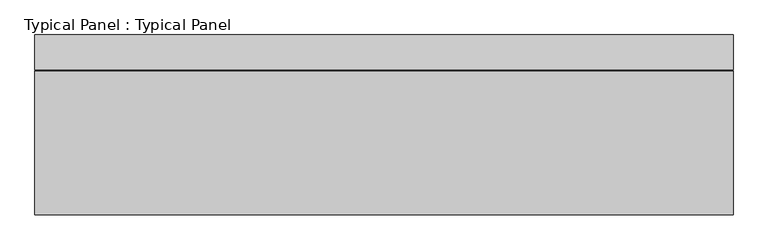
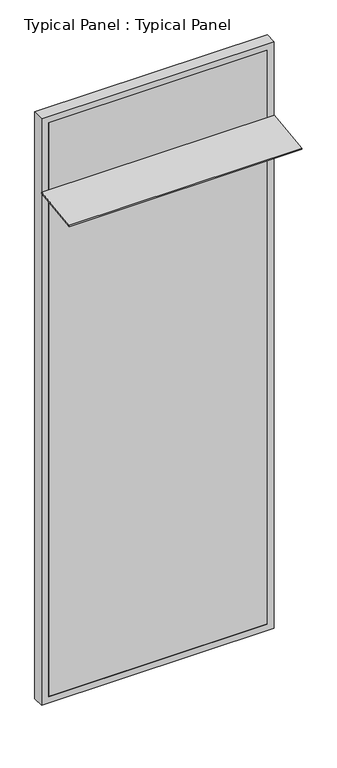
"""IFC4 building model written with IfcOpenShell, lengths in millimetres: plate geometry, Typical Panel : Typical Panel."""

import ifcopenshell
import ifcopenshell.guid

model = None  # the IFC model being written
_history = None  # IfcOwnerHistory: only IFC2X3 demands one
_inside = {}  # id of a spatial element -> (the spatial element, [elements in it])
_under = {}  # id of a project, library or spatial element -> (it, [spatial elements below it])
_declared = {}  # id of a project -> (the project, [libraries it declares])
_typed = {}  # id of a type object -> (the type object, [elements of that type])
_made_of = {}  # id of a material, layer set ... -> (it, [elements and type objects made of it])


def new_model(schema):
    """Start an empty IFC model of exactly this schema.

    Asked for "IFC4X3", IfcOpenShell would pick the latest addendum, in which some entities
    have other attributes; the version numbers below select the first issue.
    IFC2X3 requires an IfcOwnerHistory on every rooted entity: one is made here for all.
    """
    global model, _history
    if schema == "IFC4X3":
        model = ifcopenshell.file(schema_version=(4, 3, 0, 0))
    else:
        model = ifcopenshell.file(schema=schema)
    _inside.clear()
    _under.clear()
    _declared.clear()
    _typed.clear()
    _made_of.clear()
    _history = None
    if model.schema == "IFC2X3":
        org = make("IfcOrganization", Name="unknown")
        user = make(
            "IfcPersonAndOrganization",
            ThePerson=make("IfcPerson", FamilyName="unknown"),
            TheOrganization=org,
        )
        app = make(
            "IfcApplication",
            ApplicationDeveloper=org,
            Version="unknown",
            ApplicationFullName="unknown",
            ApplicationIdentifier="unknown",
        )
        _history = make(
            "IfcOwnerHistory",
            OwningUser=user,
            OwningApplication=app,
            ChangeAction="ADDED",
            CreationDate=0,
        )
    return model


def make(cls, **values):
    """One entity of the class cls with the attributes given. An attribute that is None is left unset."""
    return model.create_entity(
        cls, **{name: value for name, value in values.items() if value is not None}
    )


def rooted(cls, **values):
    """An entity with a GlobalId (a new one), such as an element, a storey or a relation."""
    return make(cls, GlobalId=ifcopenshell.guid.new(), OwnerHistory=_history, **values)


def si_unit(unit_type, name, prefix=None):
    """IfcSIUnit, for example si_unit("LENGTHUNIT", "METRE", prefix="MILLI")."""
    return make("IfcSIUnit", UnitType=unit_type, Prefix=prefix, Name=name)


def assignment(units):
    """IfcUnitAssignment: the units of a project."""
    return None if units is None else make("IfcUnitAssignment", Units=units)


def point(xyz):
    """IfcCartesianPoint."""
    return None if xyz is None else make("IfcCartesianPoint", Coordinates=xyz)


def direction(xyz):
    """IfcDirection."""
    return None if xyz is None else make("IfcDirection", DirectionRatios=xyz)


def frame(location, z_axis=None, x_axis=None):
    """IfcAxis2Placement3D, a coordinate frame: its origin and axes. An axis left out is left unset."""
    return make(
        "IfcAxis2Placement3D",
        Location=point(location),
        Axis=direction(z_axis),
        RefDirection=direction(x_axis),
    )


def origin():
    """The frame at (0, 0, 0) with its axes left unset."""
    return frame((0.0, 0.0, 0.0))


def place(relative_to, where):
    """IfcLocalPlacement: puts the frame where relative to a parent placement (None: the world)."""
    return make(
        "IfcLocalPlacement", PlacementRelTo=relative_to, RelativePlacement=where
    )


def context(
    kind, dimensions, precision=None, world=None, true_north=None, identifier=None
):
    """IfcGeometricRepresentationContext, for example the 3D "Model" context."""
    return make(
        "IfcGeometricRepresentationContext",
        ContextIdentifier=identifier,
        ContextType=kind,
        CoordinateSpaceDimension=dimensions,
        Precision=precision,
        WorldCoordinateSystem=world,
        TrueNorth=true_north,
    )


def project(units=None, contexts=None):
    """IfcProject with its units and contexts."""
    return rooted(
        "IfcProject",
        Name="project",
        RepresentationContexts=contexts,
        UnitsInContext=assignment(units),
    )


def spatial(cls, under=None, at=None, **own):
    """A site, building, storey or space (cls), placed at a placement, below another one or the project."""
    s = rooted(cls, ObjectPlacement=at, **own)
    if under is not None:
        _under.setdefault(under.id(), (under, []))[1].append(s)
    return s


def polyline(points):
    """IfcPolyline through the points."""
    return make("IfcPolyline", Points=[point(p) for p in points])


def outline(outer, holes=None, kind="AREA"):
    """IfcArbitraryClosedProfileDef: a profile drawn as a closed curve; with holes, ...WithVoids."""
    if holes is None:
        return make("IfcArbitraryClosedProfileDef", ProfileType=kind, OuterCurve=outer)
    return make(
        "IfcArbitraryProfileDefWithVoids",
        ProfileType=kind,
        OuterCurve=outer,
        InnerCurves=holes,
    )


def extrude(swept, where, along, depth):
    """IfcExtrudedAreaSolid: the profile swept, set in the frame where, extruded along a direction by depth."""
    return make(
        "IfcExtrudedAreaSolid",
        SweptArea=swept,
        Position=where,
        ExtrudedDirection=direction(along),
        Depth=depth,
    )


def shape(context_of_items, identifier, shape_type, items):
    """IfcShapeRepresentation: the items that make up one representation, for example the "Body"."""
    return make(
        "IfcShapeRepresentation",
        ContextOfItems=context_of_items,
        RepresentationIdentifier=identifier,
        RepresentationType=shape_type,
        Items=items,
    )


def source(mapping_origin, context_of_items, identifier, shape_type, items):
    """IfcRepresentationMap: a shape defined once, which mapped items show again and again."""
    return make(
        "IfcRepresentationMap",
        MappingOrigin=mapping_origin,
        MappedRepresentation=shape(context_of_items, identifier, shape_type, items),
    )


def transform(
    local_origin,
    x_axis=None,
    y_axis=None,
    z_axis=None,
    scale=None,
    scale2=None,
    scale3=None,
    uniform=True,
):
    """IfcCartesianTransformationOperator3D, or its non-uniform kind. x_axis, y_axis, z_axis: its Axis1, 2, 3."""
    if uniform:
        return make(
            "IfcCartesianTransformationOperator3D",
            Axis1=direction(x_axis),
            Axis2=direction(y_axis),
            LocalOrigin=point(local_origin),
            Scale=scale,
            Axis3=direction(z_axis),
        )
    return make(
        "IfcCartesianTransformationOperator3DnonUniform",
        Axis1=direction(x_axis),
        Axis2=direction(y_axis),
        LocalOrigin=point(local_origin),
        Scale=scale,
        Axis3=direction(z_axis),
        Scale2=scale2,
        Scale3=scale3,
    )


def mapped(mapping_source, mapping_target):
    """IfcMappedItem: shows the shape of a source again, moved by a transform."""
    return make(
        "IfcMappedItem", MappingSource=mapping_source, MappingTarget=mapping_target
    )


def made_of(thing, what):
    """Note that an element or type object is made of a material, layer set ...; save() writes the relation."""
    if what is not None:
        _made_of.setdefault(what.id(), (what, []))[1].append(thing)
    return thing


def element(
    cls,
    number,
    at=None,
    inside=None,
    cuts=None,
    type_object=None,
    material=None,
    context=None,
    identifier="Body",
    shape_type=None,
    held_by="IfcProductDefinitionShape",
    body=None,
    shapes=None,
    **own,
):
    """One element of the class cls, such as IfcWall. Its Tag is "e" and its number.

    at: its placement. inside: the storey or other place that contains it. cuts: it is an
    opening in that element (IfcRelVoidsElement). A single representation is given by context,
    identifier, shape_type and body (its items); several are given by shapes. held_by: the class
    of the entity that holds the representations. save() writes the other relations.
    """
    e = rooted(cls, Tag="e%d" % number, ObjectPlacement=at, **own)
    if body is not None:
        shapes = [shape(context, identifier, shape_type, body)]
    if shapes is not None:
        e.Representation = make(held_by, Representations=shapes)
    if inside is not None:
        _inside.setdefault(inside.id(), (inside, []))[1].append(e)
    if cuts is not None:
        rooted(
            "IfcRelVoidsElement", RelatingBuildingElement=cuts, RelatedOpeningElement=e
        )
    if type_object is not None:
        _typed.setdefault(type_object.id(), (type_object, []))[1].append(e)
    return made_of(e, material)


def aggregate(whole, parts):
    """IfcRelAggregates: a whole, such as a stair, and the parts it consists of."""
    return rooted("IfcRelAggregates", RelatingObject=whole, RelatedObjects=parts)


def save(model, path):
    """Write the relations noted so far, then the file.

    IfcRelAggregates (storeys below a building ...), IfcRelContainedInSpatialStructure (elements
    in a storey), IfcRelDefinesByType, IfcRelAssociatesMaterial and IfcRelDeclares: one each for
    every whole, place, type object, material and project.
    """
    for whole, parts in _under.values():
        aggregate(whole, parts)
    for where, things in _inside.values():
        rooted(
            "IfcRelContainedInSpatialStructure",
            RelatedElements=things,
            RelatingStructure=where,
        )
    for kind, things in _typed.values():
        rooted("IfcRelDefinesByType", RelatedObjects=things, RelatingType=kind)
    for what, things in _made_of.values():
        rooted("IfcRelAssociatesMaterial", RelatedObjects=things, RelatingMaterial=what)
    for by, libraries in _declared.values():
        rooted("IfcRelDeclares", RelatingContext=by, RelatedDefinitions=libraries)
    model.write(path)


def typical_panel_typical_panel_b461bed4(model_context):
    return source(origin(), model_context, "Body", "SweptSolid", [
        extrude(outline(polyline([(0.0, -310.0), (0.0, 0.0), (1500.0, 0.0), (1500.0, -310.0), (0.0, -310.0)])), frame((750.0, -311.4706136, 3452.295042), z_axis=(0.0, -0.12186934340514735, 0.9925461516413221), x_axis=(-1.0, 0.0, 0.0)), (0.0, 0.0, 1.0), 10.0),
        extrude(outline(polyline([(0.0, -750.0), (0.0, 750.0), (4000.0, 750.0), (4000.0, -750.0), (0.0, -750.0)]), holes=[polyline([(45.0, 705.0), (45.0, -705.0), (3955.0, -705.0), (3955.0, 705.0), (45.0, 705.0)])]), frame((0.0, -1.5797986, 0.0), z_axis=(0.0, 1.0, 0.0), x_axis=(0.0, 0.0, 1.0)), (0.0, 0.0, 1.0), 75.0),
        extrude(outline(polyline([(705.0, -1.5797986), (-705.0, -1.5797986), (-705.0, 13.4202014), (705.0, 13.4202014), (705.0, -1.5797986)])), frame((0.0, 0.0, 45.0), z_axis=(0.0, 0.0, 1.0), x_axis=(1.0, 0.0, 0.0)), (0.0, 0.0, 1.0), 3910.0),
    ])


if __name__ == "__main__":
    model = new_model("IFC4")
    model_context = context("Model", 3, world=origin())
    ifc_project = project(units=[si_unit("LENGTHUNIT", "METRE", prefix="MILLI")], contexts=[model_context])
    site = spatial("IfcSite", under=ifc_project)
    building = spatial("IfcBuilding", under=site)
    placement = place(None, origin())
    typical_panel_typical_panel_shape = typical_panel_typical_panel_b461bed4(model_context)
    element("IfcPlate", 1, ObjectType="Typical Panel : Typical Panel", at=placement, inside=building, context=model_context, shape_type="MappedRepresentation", body=[
        mapped(typical_panel_typical_panel_shape, transform((0.0, 0.0, 0.0), x_axis=(1.0, 0.0, 0.0), y_axis=(0.0, 1.0, 0.0), z_axis=(0.0, 0.0, 1.0))),
    ])
    save(model, "model.ifc")
